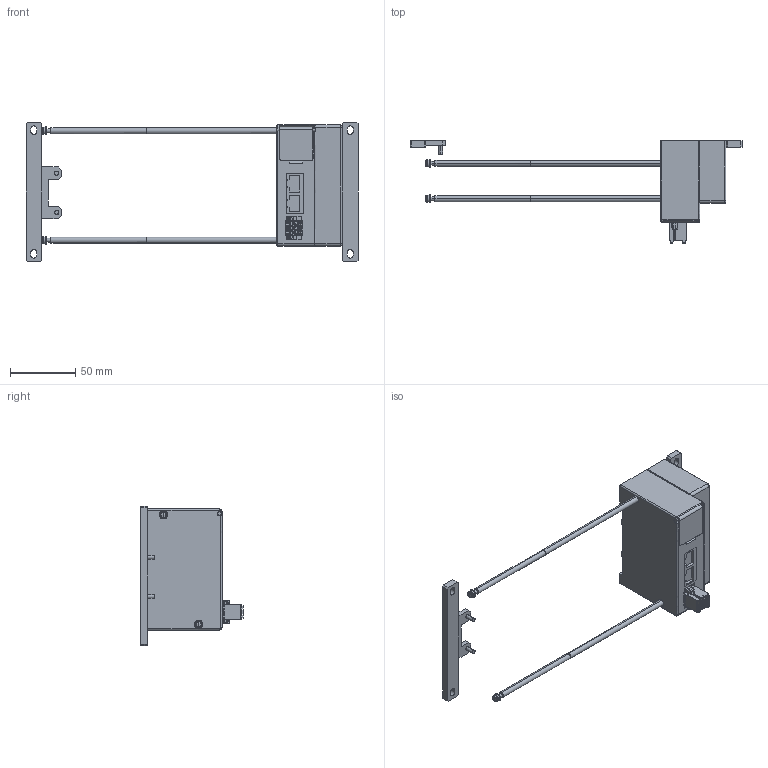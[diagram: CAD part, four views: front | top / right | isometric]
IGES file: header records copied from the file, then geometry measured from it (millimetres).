
Start section: ------------------------------------------------------------------------
Bounding box: 255 x 78.8 x 107 mm (x, y, z)
Volume: 274309.6 mm3; surface area: 46307.7 mm2
Topology: 3 solids, 3 shells, 837 faces, 2151 edges, 1371 vertices
Faces by surface type: bspline 837
